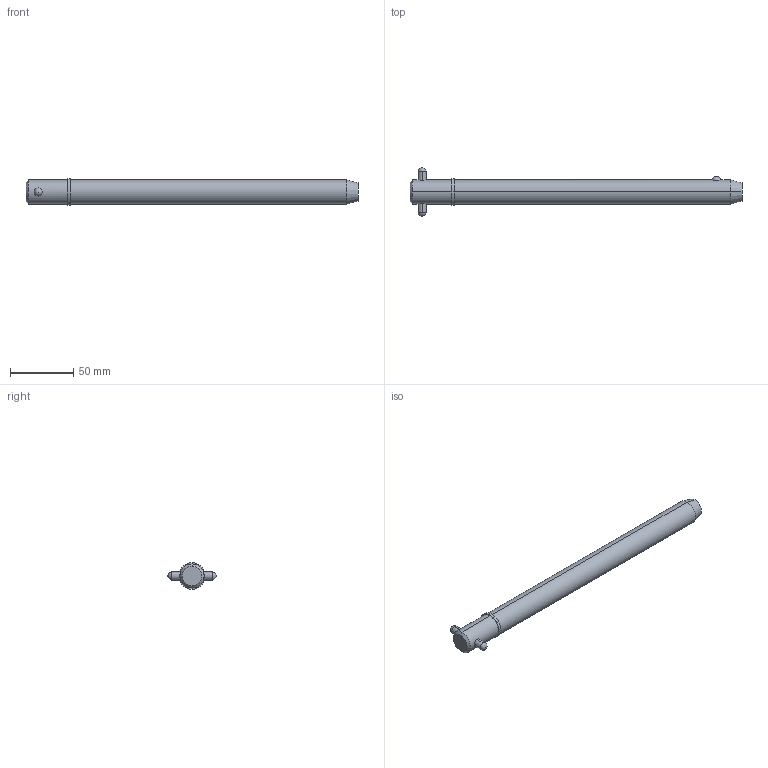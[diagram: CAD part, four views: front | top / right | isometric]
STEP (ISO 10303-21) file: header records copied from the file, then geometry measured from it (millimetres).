
FILE_DESCRIPTION (( 'STEP AP203' ), '1' );
FILE_NAME ('33018.W7580.step', '2024-11-19T17:21:34', ( '' ), ( '' ), 'SwSTEP 2.0', 'SolidWorks 2019', '' );
FILE_SCHEMA (( 'CONFIG_CONTROL_DESIGN' ));
Length unit declared in the file: millimetre
Products named in the file (3): Part2_33018.W7580; Part1_33018.W7580; 33018.W7580
Assembly tree (2 placements, depth 2):
  33018.W7580
    Part1_33018.W7580
    Part2_33018.W7580
Bounding box: 261.93 x 38.1 x 20.95 mm (x, y, z)
Volume: 74702.3 mm3; surface area: 17224.3 mm2
Topology: 2 solids, 2 shells, 22 faces, 47 edges, 30 vertices
Faces by surface type: cylinder 10, sphere 4, cone 4, plane 4
Entity records: 1041 total; most frequent: CARTESIAN_POINT 284, DIRECTION 110, ORIENTED_EDGE 82, AXIS2_PLACEMENT_3D 48, EDGE_CURVE 41, EDGE_LOOP 27, PERSON_AND_ORGANIZATION 26, VERTEX_POINT 26
